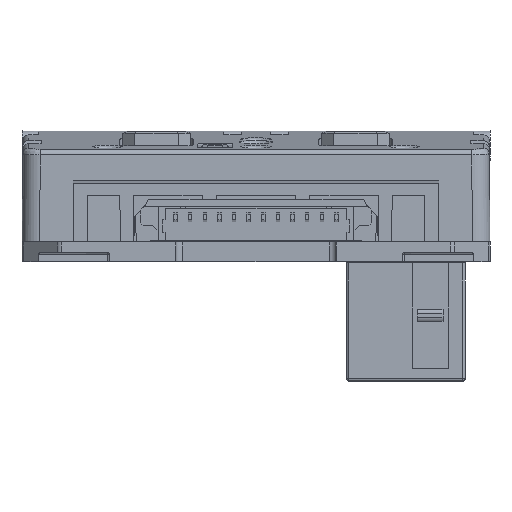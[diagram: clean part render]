
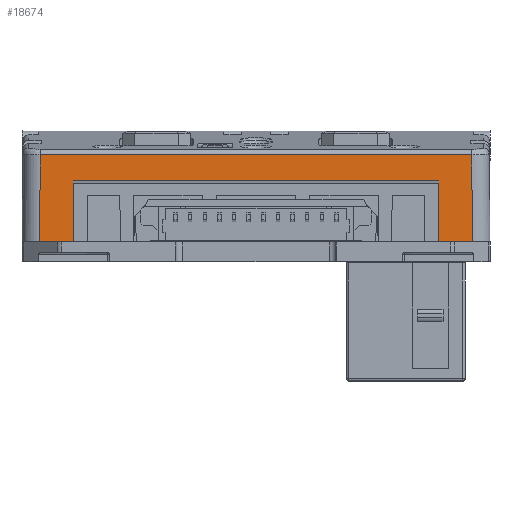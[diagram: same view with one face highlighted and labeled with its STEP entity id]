
A CAD part, front view. The second image highlights one B-rep face of the part: STEP entity #18674.
In plain terms, the highlighted planar face has unit normal (0, -1, 0.009).
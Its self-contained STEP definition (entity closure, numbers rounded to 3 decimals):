
#735=LINE('',#25158,#2814);
#745=LINE('',#25194,#2824);
#2294=LINE('',#30187,#4373);
#2295=LINE('',#30189,#4374);
#2296=LINE('',#30191,#4375);
#2297=LINE('',#30192,#4376);
#2298=LINE('',#30194,#4377);
#2299=LINE('',#30195,#4378);
#2814=VECTOR('',#20423,10.);
#2824=VECTOR('',#20449,10.);
#4373=VECTOR('',#23784,5.2);
#4374=VECTOR('',#23785,7.43);
#4375=VECTOR('',#23786,36.87);
#4376=VECTOR('',#23787,7.43);
#4377=VECTOR('',#23788,5.2);
#4378=VECTOR('',#23789,31.2);
#5321=PLANE('',#19946);
#6170=FACE_OUTER_BOUND('',#7206,.T.);
#7206=EDGE_LOOP('',(#15364,#15365,#15366,#15367,#15368,#15369,#15370,#15371));
#7643=VERTEX_POINT('',#25155);
#7644=VERTEX_POINT('',#25157);
#7661=VERTEX_POINT('',#25191);
#7662=VERTEX_POINT('',#25193);
#8996=VERTEX_POINT('',#30186);
#8997=VERTEX_POINT('',#30188);
#8998=VERTEX_POINT('',#30190);
#8999=VERTEX_POINT('',#30193);
#9336=EDGE_CURVE('',#7643,#7644,#735,.T.);
#9354=EDGE_CURVE('',#7661,#7662,#745,.T.);
#11262=EDGE_CURVE('',#8996,#7662,#2294,.T.);
#11263=EDGE_CURVE('',#8997,#7661,#2295,.T.);
#11264=EDGE_CURVE('',#8998,#8997,#2296,.T.);
#11265=EDGE_CURVE('',#7644,#8998,#2297,.T.);
#11266=EDGE_CURVE('',#7643,#8999,#2298,.T.);
#11267=EDGE_CURVE('',#8999,#8996,#2299,.T.);
#15364=ORIENTED_EDGE('',*,*,#11262,.T.);
#15365=ORIENTED_EDGE('',*,*,#9354,.F.);
#15366=ORIENTED_EDGE('',*,*,#11263,.F.);
#15367=ORIENTED_EDGE('',*,*,#11264,.F.);
#15368=ORIENTED_EDGE('',*,*,#11265,.F.);
#15369=ORIENTED_EDGE('',*,*,#9336,.F.);
#15370=ORIENTED_EDGE('',*,*,#11266,.T.);
#15371=ORIENTED_EDGE('',*,*,#11267,.T.);
#18674=ADVANCED_FACE('',(#6170),#5321,.T.);
#19946=AXIS2_PLACEMENT_3D('',#30185,#23782,#23783);
#20423=DIRECTION('',(-1.,0.,0.));
#20449=DIRECTION('',(-1.,0.,0.));
#23782=DIRECTION('center_axis',(0.,-1.,0.009));
#23783=DIRECTION('ref_axis',(0.,-0.009,-1.));
#23784=DIRECTION('',(0.,-0.009,-1.));
#23785=DIRECTION('',(0.009,-0.009,-1.));
#23786=DIRECTION('',(1.,0.,0.));
#23787=DIRECTION('',(0.009,0.009,1.));
#23788=DIRECTION('',(0.,0.009,1.));
#23789=DIRECTION('',(1.,0.,0.));
#25155=CARTESIAN_POINT('',(-15.6,-16.7,1.7));
#25157=CARTESIAN_POINT('',(-18.5,-16.7,1.7));
#25158=CARTESIAN_POINT('',(0.,-16.7,1.7));
#25191=CARTESIAN_POINT('',(18.5,-16.7,1.7));
#25193=CARTESIAN_POINT('',(15.6,-16.7,1.7));
#25194=CARTESIAN_POINT('',(0.,-16.7,1.7));
#30185=CARTESIAN_POINT('Origin',(0.,-16.631,9.579));
#30186=CARTESIAN_POINT('',(15.6,-16.655,6.9));
#30187=CARTESIAN_POINT('',(15.6,-16.666,5.643));
#30188=CARTESIAN_POINT('',(18.435,-16.635,9.129));
#30189=CARTESIAN_POINT('',(18.437,-16.637,8.906));
#30190=CARTESIAN_POINT('',(-18.435,-16.635,9.129));
#30191=CARTESIAN_POINT('',(0.,-16.635,9.129));
#30192=CARTESIAN_POINT('',(-18.437,-16.637,8.906));
#30193=CARTESIAN_POINT('',(-15.6,-16.655,6.9));
#30194=CARTESIAN_POINT('',(-15.6,-16.666,5.643));
#30195=CARTESIAN_POINT('',(-1.7,-16.655,6.9));
